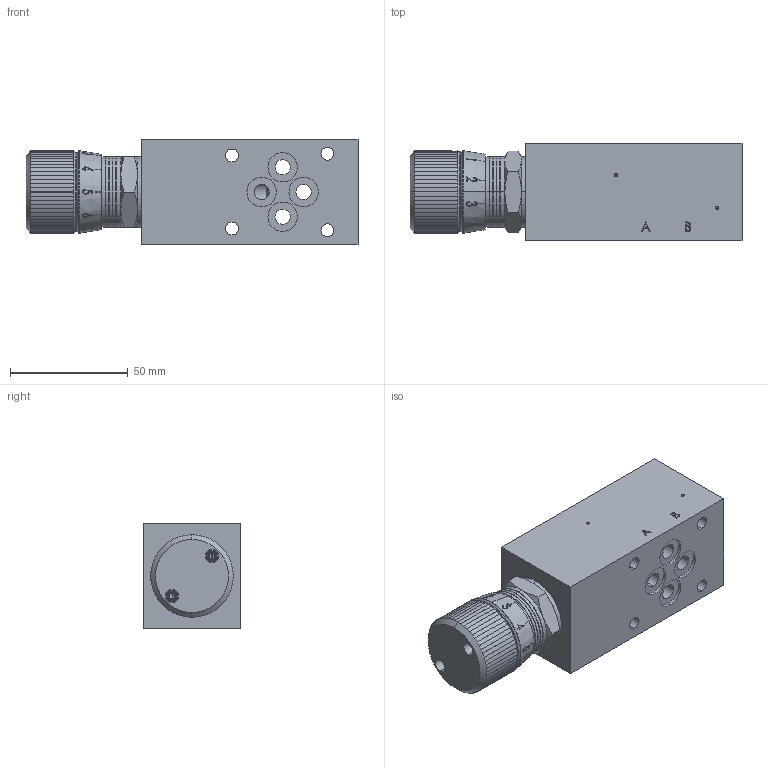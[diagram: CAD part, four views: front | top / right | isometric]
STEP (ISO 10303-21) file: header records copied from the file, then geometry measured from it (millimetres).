
FILE_DESCRIPTION (( 'STEP AP214' ), '1' );
FILE_NAME ('ADRA6.STEP', '2017-04-10T12:56:34', ( '' ), ( '' ), 'SwSTEP 2.0', 'SolidWorks 2016', '' );
FILE_SCHEMA (( 'AUTOMOTIVE_DESIGN' ));
Length unit declared in the file: millimetre
Products named in the file (1): ADRA6
Bounding box: 141 x 41.5 x 45 mm (x, y, z)
Volume: 187046.1 mm3; surface area: 41932.6 mm2
Topology: 8 solids, 8 shells, 984 faces, 2702 edges, 1751 vertices
Faces by surface type: plane 591, cylinder 156, bspline 129, cone 100, torus 8
Entity records: 56981 total; most frequent: CARTESIAN_POINT 23049, ORIENTED_EDGE 5372, DIRECTION 3950, EDGE_CURVE 2686, VERTEX_POINT 1751, AXIS2_PLACEMENT_3D 1458, EDGE_LOOP 1049, LINE 1034
